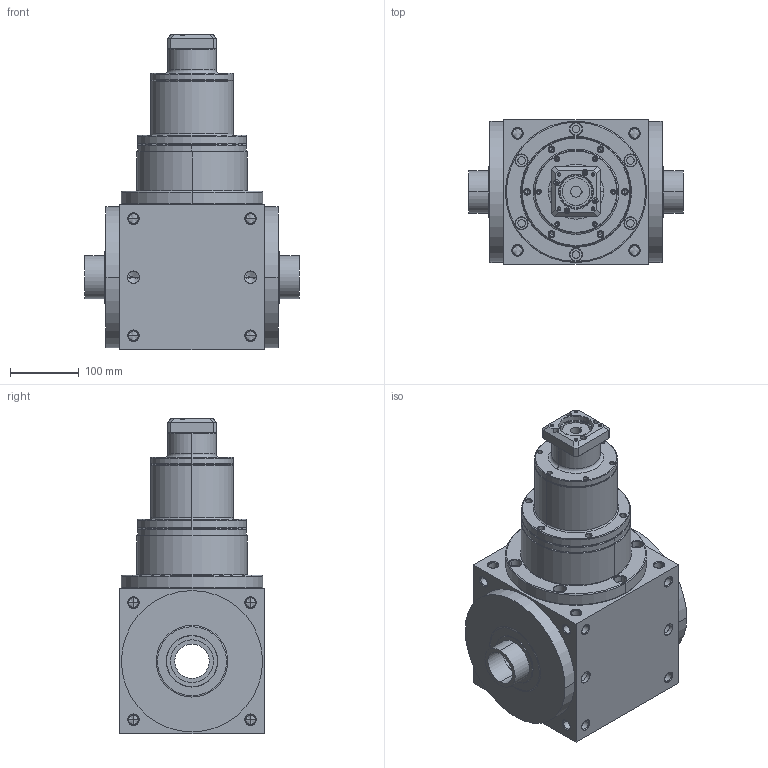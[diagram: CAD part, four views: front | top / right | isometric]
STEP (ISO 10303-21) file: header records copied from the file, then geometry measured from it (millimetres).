
FILE_DESCRIPTION((''),'2;1');
FILE_NAME('AT210FC3-P0405200304_ASM','2009-02-06T',('d00176'),(''),'PRO/ENGINEER BY PARAMETRIC TECHNOLOGY CORPORATION, 2006170','PRO/ENGINEER BY PARAMETRIC TECHNOLOGY CORPORATION, 2006170','');
FILE_SCHEMA(('CONFIG_CONTROL_DESIGN'));
Length unit declared in the file: millimetre
Products named in the file (6): ATFC-HOUSING-3-8; P1801800001; P0226800002; P0227800001; P0405200304; AT210FC3-P0405200304_ASM
Assembly tree (5 placements, depth 2):
  AT210FC3-P0405200304_ASM
    ATFC-HOUSING-3-8
    P1801800001
    P0226800002
    P0227800001
    P0405200304
Bounding box: 312 x 210 x 457.5 mm (x, y, z)
Volume: 11890591.7 mm3; surface area: 731652.7 mm2
Topology: 5 solids, 49 shells, 905 faces, 2192 edges, 1293 vertices
Faces by surface type: cylinder 388, cone 338, plane 117, torus 58, bspline 4
Entity records: 26986 total; most frequent: CARTESIAN_POINT 5581, DIRECTION 4896, ORIENTED_EDGE 4012, EDGE_CURVE 2094, AXIS2_PLACEMENT_3D 2062, VERTEX_POINT 1293, CIRCLE 1140, EDGE_LOOP 1087
